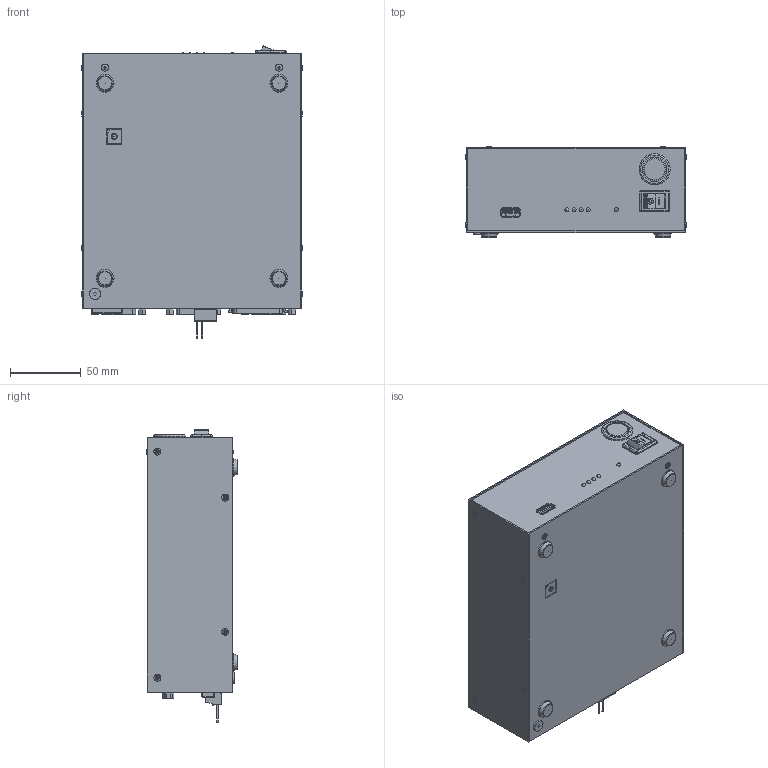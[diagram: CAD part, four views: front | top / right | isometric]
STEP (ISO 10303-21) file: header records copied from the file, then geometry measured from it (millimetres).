
FILE_DESCRIPTION( (''), '2;1');
FILE_NAME ('CP-700M.stp','2025-05-13T12:01:34',(''),(''),'spGate 19.8.4 (****-****-****-****)','','');
FILE_SCHEMA (('AUTOMOTIVE_DESIGN'));
Length unit declared in the file: millimetre
Products named in the file (249): Assembly; CP-700M-prt0; CP-700M-prt1; CP-700M-prt2; CP-700M-prt3; CP-700M-prt4; CP-700M-prt5; CP-700M-prt6; CP-700M-prt7; CP-700M-prt8; CP-700M-prt9; CP-700M-prt10; CP-700M-prt11; CP-700M-prt12; CP-700M-prt13; CP-700M-prt14; CP-700M-prt15; CP-700M-prt16; CP-700M-prt17; CP-700M-prt18; CP-700M-prt19; CP-700M-prt20; CP-700M-prt21; CP-700M-prt22; CP-700M-prt23; CP-700M-prt24; CP-700M-prt25; CP-700M-prt26; CP-700M-prt27; CP-700M-prt28; CP-700M-prt29; CP-700M-prt30; CP-700M-prt31; CP-700M-prt32; CP-700M-prt33; CP-700M-prt34; CP-700M-prt35; CP-700M-prt36; CP-700M-prt37; CP-700M-prt38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
Assembly tree (248 placements, depth 2):
  Assembly
    CP-700M-prt0
    CP-700M-prt1
    CP-700M-prt2
    CP-700M-prt3
    CP-700M-prt4
    CP-700M-prt5
    CP-700M-prt6
    CP-700M-prt7
    CP-700M-prt8
    CP-700M-prt9
    CP-700M-prt10
    CP-700M-prt11
    CP-700M-prt12
    CP-700M-prt13
    CP-700M-prt14
    CP-700M-prt15
    CP-700M-prt16
    CP-700M-prt17
    CP-700M-prt18
    CP-700M-prt19
    CP-700M-prt20
    CP-700M-prt21
    CP-700M-prt22
    CP-700M-prt23
    CP-700M-prt24
    CP-700M-prt25
    CP-700M-prt26
    CP-700M-prt27
    CP-700M-prt28
    CP-700M-prt29
    CP-700M-prt30
    CP-700M-prt31
    CP-700M-prt32
    CP-700M-prt33
    CP-700M-prt34
    CP-700M-prt35
    CP-700M-prt36
    CP-700M-prt37
    CP-700M-prt38
    CP-700M-prt39
    CP-700M-prt40
    CP-700M-prt41
    CP-700M-prt42
    CP-700M-prt43
    CP-700M-prt44
    CP-700M-prt45
    CP-700M-prt46
    CP-700M-prt47
    CP-700M-prt48
    CP-700M-prt49
    CP-700M-prt50
    CP-700M-prt51
    CP-700M-prt52
    CP-700M-prt53
    CP-700M-prt54
    CP-700M-prt55
    CP-700M-prt56
    CP-700M-prt57
    CP-700M-prt58
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Bounding box: 156.18 x 64.19 x 206.49 mm (x, y, z)
Volume: 140246.2 mm3; surface area: 218642.4 mm2
Topology: 51 solids, 51 shells, 3692 faces, 9618 edges, 6395 vertices
Faces by surface type: plane 2683, cylinder 651, bspline 350, sphere 8
Full cylindrical faces by diameter (mm): 2.6 x12, 4 x1, 5 x12, 8 x1, 12.7 x4, 17.4 x1
Entity records: 200694 total; most frequent: CARTESIAN_POINT 28925, ORIENTED_EDGE 18772, DIRECTION 18367, COLOUR_RGB 13326, PRESENTATION_STYLE_ASSIGNMENT 13326, STYLED_ITEM 13326, DRAUGHTING_PRE_DEFINED_CURVE_FONT 9579, CURVE_STYLE 9579
